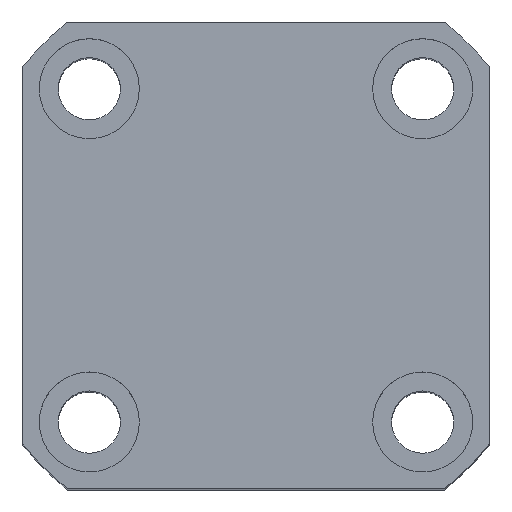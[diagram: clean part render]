
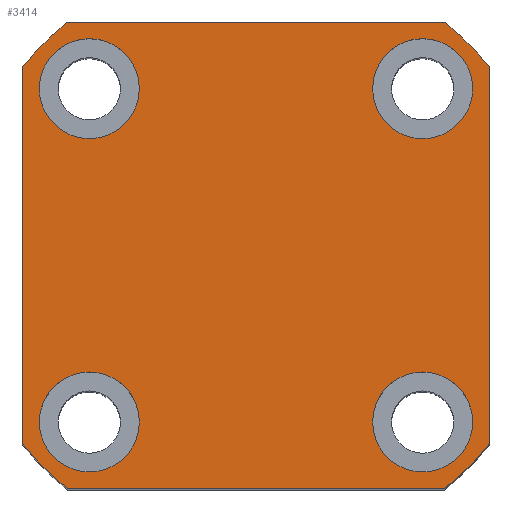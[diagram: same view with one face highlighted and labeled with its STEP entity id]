
A CAD part, top view. The second image highlights one B-rep face of the part: STEP entity #3414.
In plain terms, the highlighted planar face has unit normal (0, 0, 1).
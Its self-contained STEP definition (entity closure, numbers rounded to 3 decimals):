
#3414=ADVANCED_FACE('',(#4164,#4165,#4166,#4167,#4168),#3841,.T.);
#3841=PLANE('',#11230);
#4164=FACE_BOUND('',#4364,.T.);
#4165=FACE_BOUND('',#4365,.T.);
#4166=FACE_BOUND('',#4366,.T.);
#4167=FACE_BOUND('',#4367,.T.);
#4168=FACE_BOUND('',#4368,.T.);
#4364=EDGE_LOOP('',(#6634));
#4365=EDGE_LOOP('',(#6635));
#4366=EDGE_LOOP('',(#6636));
#4367=EDGE_LOOP('',(#6637));
#4368=EDGE_LOOP('',(#6638,#6639,#6640,#6641,#6642,#6643,#6644,#6645));
#4878=LINE('',#13379,#5656);
#4883=LINE('',#14021,#5661);
#4887=LINE('',#14030,#5665);
#4891=LINE('',#14039,#5669);
#5656=VECTOR('',#11615,1.);
#5661=VECTOR('',#11742,1.);
#5665=VECTOR('',#11748,1.);
#5669=VECTOR('',#11754,1.);
#6634=ORIENTED_EDGE('',*,*,#9873,.F.);
#6635=ORIENTED_EDGE('',*,*,#9875,.F.);
#6636=ORIENTED_EDGE('',*,*,#9877,.F.);
#6637=ORIENTED_EDGE('',*,*,#9879,.F.);
#6638=ORIENTED_EDGE('',*,*,#9932,.T.);
#6639=ORIENTED_EDGE('',*,*,#9943,.T.);
#6640=ORIENTED_EDGE('',*,*,#9936,.T.);
#6641=ORIENTED_EDGE('',*,*,#9944,.T.);
#6642=ORIENTED_EDGE('',*,*,#9847,.T.);
#6643=ORIENTED_EDGE('',*,*,#9945,.T.);
#6644=ORIENTED_EDGE('',*,*,#9940,.T.);
#6645=ORIENTED_EDGE('',*,*,#9946,.T.);
#8970=VERTEX_POINT('',#13377);
#8972=VERTEX_POINT('',#13380);
#8996=VERTEX_POINT('',#13563);
#8998=VERTEX_POINT('',#13568);
#9000=VERTEX_POINT('',#13573);
#9002=VERTEX_POINT('',#13578);
#9054=VERTEX_POINT('',#14019);
#9056=VERTEX_POINT('',#14022);
#9058=VERTEX_POINT('',#14028);
#9060=VERTEX_POINT('',#14031);
#9062=VERTEX_POINT('',#14037);
#9064=VERTEX_POINT('',#14040);
#9847=EDGE_CURVE('',#8972,#8970,#4878,.T.);
#9873=EDGE_CURVE('',#8996,#8996,#11082,.T.);
#9875=EDGE_CURVE('',#8998,#8998,#11084,.T.);
#9877=EDGE_CURVE('',#9000,#9000,#11086,.T.);
#9879=EDGE_CURVE('',#9002,#9002,#11088,.T.);
#9932=EDGE_CURVE('',#9056,#9054,#4883,.T.);
#9936=EDGE_CURVE('',#9060,#9058,#4887,.T.);
#9940=EDGE_CURVE('',#9064,#9062,#4891,.T.);
#9943=EDGE_CURVE('',#9054,#9060,#11100,.T.);
#9944=EDGE_CURVE('',#9058,#8972,#11101,.T.);
#9945=EDGE_CURVE('',#8970,#9064,#11102,.T.);
#9946=EDGE_CURVE('',#9062,#9056,#11103,.T.);
#11082=CIRCLE('',#11196,4.5);
#11084=CIRCLE('',#11199,4.5);
#11086=CIRCLE('',#11202,4.5);
#11088=CIRCLE('',#11205,4.5);
#11100=CIRCLE('',#11226,27.);
#11101=CIRCLE('',#11227,27.);
#11102=CIRCLE('',#11228,27.);
#11103=CIRCLE('',#11229,27.);
#11196=AXIS2_PLACEMENT_3D('',#13562,#11686,#11687);
#11199=AXIS2_PLACEMENT_3D('',#13567,#11692,#11693);
#11202=AXIS2_PLACEMENT_3D('',#13572,#11698,#11699);
#11205=AXIS2_PLACEMENT_3D('',#13577,#11704,#11705);
#11226=AXIS2_PLACEMENT_3D('',#14045,#11759,#11760);
#11227=AXIS2_PLACEMENT_3D('',#14046,#11761,#11762);
#11228=AXIS2_PLACEMENT_3D('',#14047,#11763,#11764);
#11229=AXIS2_PLACEMENT_3D('',#14048,#11765,#11766);
#11230=AXIS2_PLACEMENT_3D('',#14049,#11767,#11768);
#11615=DIRECTION('',(0.,-1.,0.));
#11686=DIRECTION('',(0.,0.,1.));
#11687=DIRECTION('',(1.,0.,0.));
#11692=DIRECTION('',(0.,0.,1.));
#11693=DIRECTION('',(1.,0.,0.));
#11698=DIRECTION('',(0.,0.,1.));
#11699=DIRECTION('',(1.,0.,0.));
#11704=DIRECTION('',(0.,0.,1.));
#11705=DIRECTION('',(1.,0.,0.));
#11742=DIRECTION('',(0.,1.,0.));
#11748=DIRECTION('',(-1.,0.,0.));
#11754=DIRECTION('',(1.,0.,0.));
#11759=DIRECTION('',(0.,0.,1.));
#11760=DIRECTION('',(1.,0.,0.));
#11761=DIRECTION('',(0.,0.,1.));
#11762=DIRECTION('',(1.,0.,0.));
#11763=DIRECTION('',(0.,0.,1.));
#11764=DIRECTION('',(1.,0.,0.));
#11765=DIRECTION('',(0.,0.,1.));
#11766=DIRECTION('',(1.,0.,0.));
#11767=DIRECTION('',(0.,0.,1.));
#11768=DIRECTION('',(-1.,0.,0.));
#13377=CARTESIAN_POINT('',(-151.524,6.128,87.455));
#13379=CARTESIAN_POINT('',(-151.524,44.098,87.455));
#13380=CARTESIAN_POINT('',(-151.524,40.069,87.455));
#13562=CARTESIAN_POINT('',(-145.524,38.1,87.455));
#13563=CARTESIAN_POINT('',(-141.024,38.1,87.455));
#13567=CARTESIAN_POINT('',(-145.524,8.1,87.455));
#13568=CARTESIAN_POINT('',(-141.024,8.1,87.455));
#13572=CARTESIAN_POINT('',(-115.524,8.1,87.455));
#13573=CARTESIAN_POINT('',(-111.024,8.1,87.455));
#13577=CARTESIAN_POINT('',(-115.524,38.098,87.455));
#13578=CARTESIAN_POINT('',(-111.024,38.098,87.455));
#14019=CARTESIAN_POINT('',(-109.524,40.069,87.455));
#14021=CARTESIAN_POINT('',(-109.524,44.098,87.455));
#14022=CARTESIAN_POINT('',(-109.524,6.128,87.455));
#14028=CARTESIAN_POINT('',(-147.494,44.098,87.455));
#14030=CARTESIAN_POINT('',(-151.524,44.098,87.455));
#14031=CARTESIAN_POINT('',(-113.553,44.098,87.455));
#14037=CARTESIAN_POINT('',(-113.553,2.098,87.455));
#14039=CARTESIAN_POINT('',(-151.524,2.098,87.455));
#14040=CARTESIAN_POINT('',(-147.494,2.098,87.455));
#14045=CARTESIAN_POINT('',(-130.524,23.098,87.455));
#14046=CARTESIAN_POINT('',(-130.524,23.098,87.455));
#14047=CARTESIAN_POINT('',(-130.524,23.098,87.455));
#14048=CARTESIAN_POINT('',(-130.524,23.098,87.455));
#14049=CARTESIAN_POINT('',(-130.524,23.098,87.455));
